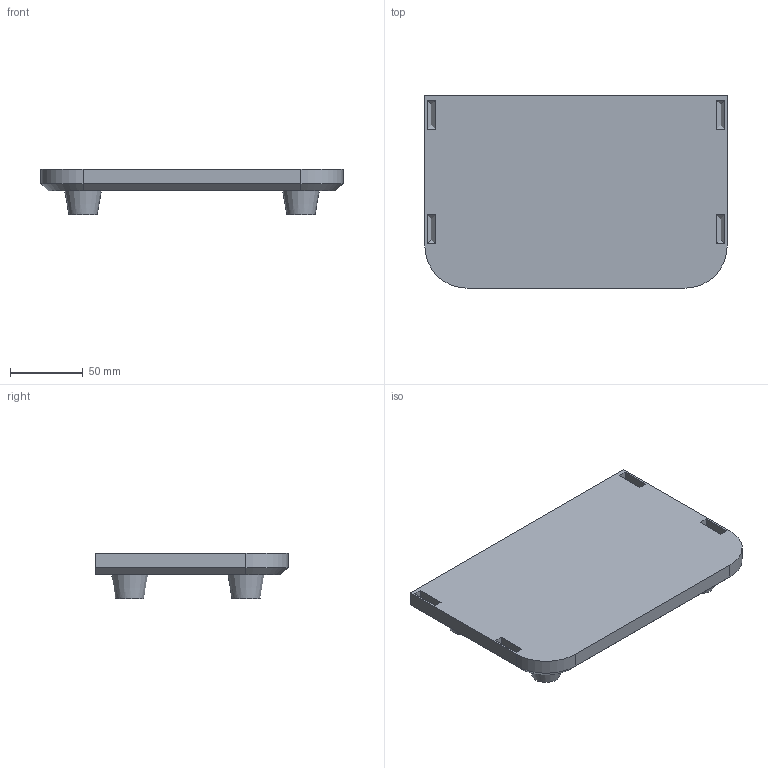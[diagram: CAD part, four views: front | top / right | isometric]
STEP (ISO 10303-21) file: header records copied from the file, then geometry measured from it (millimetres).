
FILE_DESCRIPTION(/* description */ (''),/* implementation_level */ '2;1');
FILE_NAME(/* name */ 'StackDrawerBox2-base-hollow.step',/* time_stamp */ '2024-06-25T20:38:54+02:00',/* author */ (''),/* organization */ (''),/* preprocessor_version */ 'ST-DEVELOPER v20',/* originating_system */ 'Autodesk Translation Framework v13.14.0.145',/* authorisation */ '');
FILE_SCHEMA (('AUTOMOTIVE_DESIGN { 1 0 10303 214 3 1 1 }'));
Length unit declared in the file: millimetre
Products named in the file (2): StackDrawerBox2-base2; Component3
Assembly tree (1 placements, depth 2):
  StackDrawerBox2-base2
    Component3
Bounding box: 208 x 132.3 x 31.5 mm (x, y, z)
Volume: 125632.7 mm3; surface area: 82692.7 mm2
Topology: 1 solids, 1 shells, 68 faces, 149 edges, 92 vertices
Faces by surface type: plane 56, cone 8, cylinder 4
Entity records: 1873 total; most frequent: CARTESIAN_POINT 320, DIRECTION 307, ORIENTED_EDGE 298, EDGE_CURVE 149, LINE 125, VECTOR 125, VERTEX_POINT 92, AXIS2_PLACEMENT_3D 91
